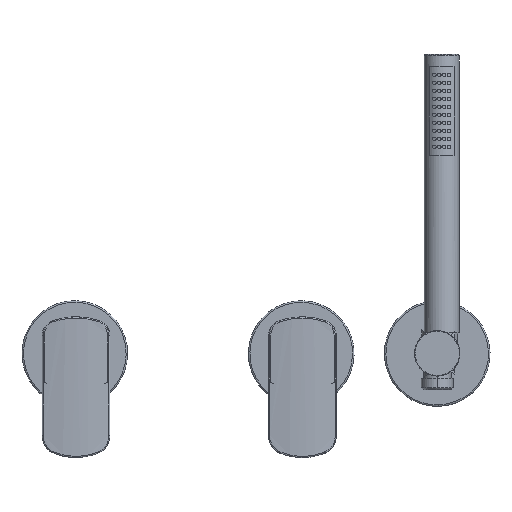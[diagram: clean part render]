
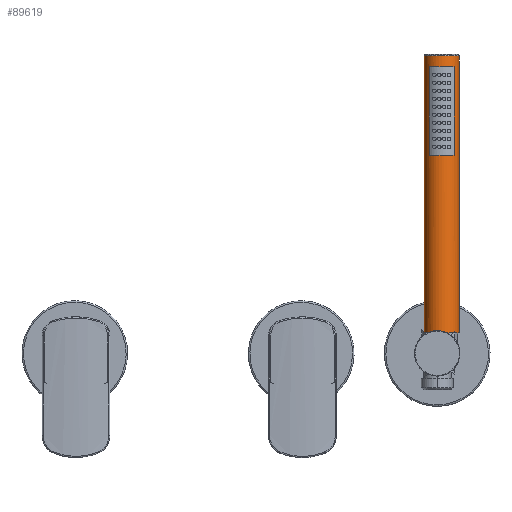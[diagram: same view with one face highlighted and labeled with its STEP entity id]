
A CAD part, top view. The second image highlights one B-rep face of the part: STEP entity #89619.
In plain terms, the highlighted cylindrical face has radius 11.5 mm (diameter 23 mm), a partial arc.
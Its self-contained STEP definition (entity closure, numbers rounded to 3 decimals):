
#2406 = ORIENTED_EDGE ( 'NONE', *, *, #67448, .F. ) ;
#3862 = EDGE_LOOP ( 'NONE', ( #86270, #7210, #69590, #2406 ) ) ;
#5665 = CARTESIAN_POINT ( 'NONE',  ( 234.919, 131.27, 160.913 ) ) ;
#6383 = DIRECTION ( 'NONE',  ( 0., -1., 0. ) ) ;
#7210 = ORIENTED_EDGE ( 'NONE', *, *, #24427, .T. ) ;
#7402 = VERTEX_POINT ( 'NONE', #31515 ) ;
#7737 = AXIS2_PLACEMENT_3D ( 'NONE', #17464, #53594, #58761 ) ;
#7778 = DIRECTION ( 'NONE',  ( 0., 1., 0. ) ) ;
#9501 = EDGE_CURVE ( 'NONE', #43149, #7402, #72888, .T. ) ;
#17205 = VECTOR ( 'NONE', #78186, 1000. ) ;
#17464 = CARTESIAN_POINT ( 'NONE',  ( 243.069, 13.47, 152.8 ) ) ;
#19270 = DIRECTION ( 'NONE',  ( 0., 1., 0. ) ) ;
#19446 = CARTESIAN_POINT ( 'NONE',  ( 234.919, 189.77, 160.913 ) ) ;
#20801 = LINE ( 'NONE', #49461, #17205 ) ;
#21836 = AXIS2_PLACEMENT_3D ( 'NONE', #52529, #31392, #79508 ) ;
#21847 = CYLINDRICAL_SURFACE ( 'NONE', #78141, 11.5 ) ;
#24427 = EDGE_CURVE ( 'NONE', #27017, #43149, #40179, .T. ) ;
#24479 = CARTESIAN_POINT ( 'NONE',  ( 243.069, 189.77, 152.8 ) ) ;
#24645 = CARTESIAN_POINT ( 'NONE',  ( 231.569, 13.47, 152.8 ) ) ;
#27017 = VERTEX_POINT ( 'NONE', #46186 ) ;
#28189 = CARTESIAN_POINT ( 'NONE',  ( 251.219, 131.27, 160.913 ) ) ;
#28951 = VERTEX_POINT ( 'NONE', #24645 ) ;
#29415 = EDGE_LOOP ( 'NONE', ( #55210, #40792, #42339, #74591 ) ) ;
#31392 = DIRECTION ( 'NONE',  ( 0., -1., 0. ) ) ;
#31515 = CARTESIAN_POINT ( 'NONE',  ( 231.569, 196.97, 152.8 ) ) ;
#33167 = VECTOR ( 'NONE', #47630, 1000. ) ;
#34101 = CARTESIAN_POINT ( 'NONE',  ( 243.069, 131.27, 152.8 ) ) ;
#36450 = DIRECTION ( 'NONE',  ( -1., 0., 0. ) ) ;
#40179 = LINE ( 'NONE', #40636, #33167 ) ;
#40319 = CIRCLE ( 'NONE', #44765, 11.5 ) ;
#40378 = VERTEX_POINT ( 'NONE', #28189 ) ;
#40636 = CARTESIAN_POINT ( 'NONE',  ( 254.569, 150.97, 152.8 ) ) ;
#40792 = ORIENTED_EDGE ( 'NONE', *, *, #51908, .T. ) ;
#41653 = DIRECTION ( 'NONE',  ( 0., -1., 0. ) ) ;
#42339 = ORIENTED_EDGE ( 'NONE', *, *, #79843, .T. ) ;
#42380 = EDGE_CURVE ( 'NONE', #50550, #47190, #71849, .T. ) ;
#43149 = VERTEX_POINT ( 'NONE', #56977 ) ;
#43273 = AXIS2_PLACEMENT_3D ( 'NONE', #24479, #19270, #69113 ) ;
#44765 = AXIS2_PLACEMENT_3D ( 'NONE', #34101, #6383, #91915 ) ;
#46186 = CARTESIAN_POINT ( 'NONE',  ( 254.569, 13.47, 152.8 ) ) ;
#46794 = CARTESIAN_POINT ( 'NONE',  ( 251.219, 189.77, 160.913 ) ) ;
#47190 = VERTEX_POINT ( 'NONE', #46794 ) ;
#47630 = DIRECTION ( 'NONE',  ( 0., 1., 0. ) ) ;
#49461 = CARTESIAN_POINT ( 'NONE',  ( 231.569, 150.97, 152.8 ) ) ;
#50532 = CARTESIAN_POINT ( 'NONE',  ( 243.069, 150.97, 152.8 ) ) ;
#50550 = VERTEX_POINT ( 'NONE', #19446 ) ;
#51908 = EDGE_CURVE ( 'NONE', #47190, #40378, #83068, .T. ) ;
#52529 = CARTESIAN_POINT ( 'NONE',  ( 243.069, 196.97, 152.8 ) ) ;
#53594 = DIRECTION ( 'NONE',  ( 0., 1., 0. ) ) ;
#54012 = VECTOR ( 'NONE', #84577, 1000. ) ;
#55210 = ORIENTED_EDGE ( 'NONE', *, *, #42380, .T. ) ;
#55858 = LINE ( 'NONE', #91608, #54012 ) ;
#56977 = CARTESIAN_POINT ( 'NONE',  ( 254.569, 196.97, 152.8 ) ) ;
#58761 = DIRECTION ( 'NONE',  ( -1., 0., 0. ) ) ;
#64032 = EDGE_CURVE ( 'NONE', #28951, #27017, #88779, .T. ) ;
#67448 = EDGE_CURVE ( 'NONE', #28951, #7402, #20801, .T. ) ;
#69113 = DIRECTION ( 'NONE',  ( -1., 0., 0. ) ) ;
#69459 = CARTESIAN_POINT ( 'NONE',  ( 251.219, 150.97, 160.913 ) ) ;
#69590 = ORIENTED_EDGE ( 'NONE', *, *, #9501, .T. ) ;
#70559 = VECTOR ( 'NONE', #41653, 1000. ) ;
#71849 = CIRCLE ( 'NONE', #43273, 11.5 ) ;
#72888 = CIRCLE ( 'NONE', #21836, 11.5 ) ;
#74591 = ORIENTED_EDGE ( 'NONE', *, *, #82335, .T. ) ;
#78141 = AXIS2_PLACEMENT_3D ( 'NONE', #50532, #7778, #36450 ) ;
#78186 = DIRECTION ( 'NONE',  ( 0., 1., 0. ) ) ;
#79232 = FACE_OUTER_BOUND ( 'NONE', #3862, .T. ) ;
#79508 = DIRECTION ( 'NONE',  ( -1., 0., 0. ) ) ;
#79843 = EDGE_CURVE ( 'NONE', #40378, #91355, #40319, .T. ) ;
#80606 = FACE_BOUND ( 'NONE', #29415, .T. ) ;
#82335 = EDGE_CURVE ( 'NONE', #91355, #50550, #55858, .T. ) ;
#83068 = LINE ( 'NONE', #69459, #70559 ) ;
#84577 = DIRECTION ( 'NONE',  ( 0., 1., 0. ) ) ;
#86270 = ORIENTED_EDGE ( 'NONE', *, *, #64032, .T. ) ;
#88779 = CIRCLE ( 'NONE', #7737, 11.5 ) ;
#89619 = ADVANCED_FACE ( 'NONE', ( #80606, #79232 ), #21847, .T. ) ;
#91355 = VERTEX_POINT ( 'NONE', #5665 ) ;
#91608 = CARTESIAN_POINT ( 'NONE',  ( 234.919, 150.97, 160.913 ) ) ;
#91915 = DIRECTION ( 'NONE',  ( -1., 0., 0. ) ) ;
